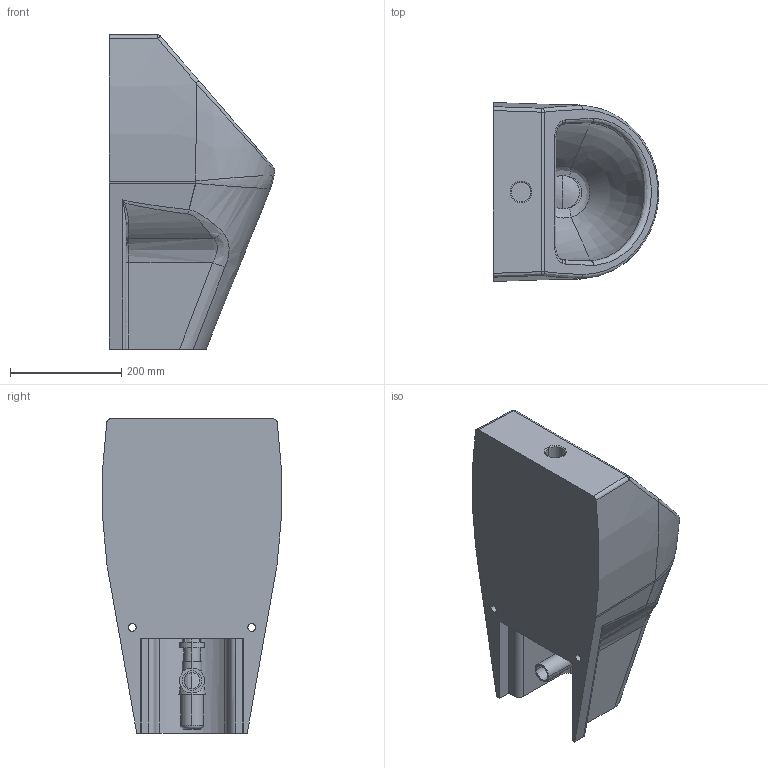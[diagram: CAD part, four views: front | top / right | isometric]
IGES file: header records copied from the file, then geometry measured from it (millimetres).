
Global section: file name: No Iges File Name specified; native system: Autodesk Inventor 2011; preprocessor: AutoDesk Inventor Iges Exporter R2011; author: Administrator; date: 20150521.141105; units: millimetre
Bounding box: 297.57 x 321.91 x 565 mm (x, y, z)
Volume: 16416865.8 mm3; surface area: 877249.4 mm2
Topology: 5 solids, 5 shells, 205 faces, 510 edges, 318 vertices
Faces by surface type: bspline 82, plane 46, cylinder 40, revolution 18, torus 13, sphere 4, cone 2
